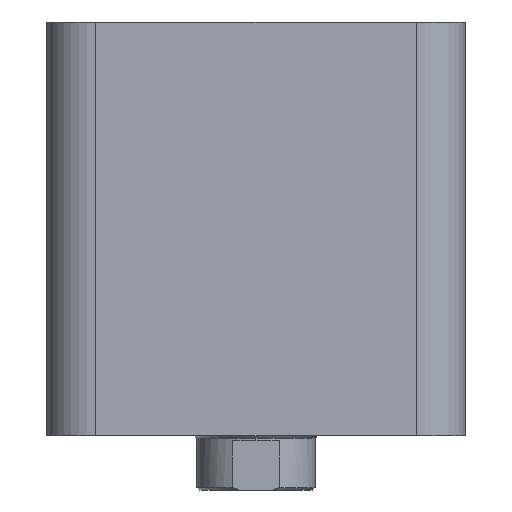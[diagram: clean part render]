
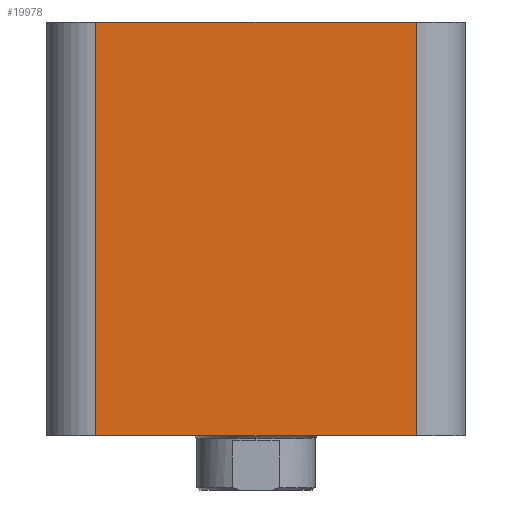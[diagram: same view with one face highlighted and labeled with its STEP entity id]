
A CAD part, left-side view. The second image highlights one B-rep face of the part: STEP entity #19978.
In plain terms, the highlighted planar face has unit normal (-1, 0, 0).
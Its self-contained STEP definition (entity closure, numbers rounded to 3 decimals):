
#2813 = DIRECTION ( 'NONE',  ( 0., 0., 1. ) ) ;
#2987 = PLANE ( 'NONE',  #12349 ) ;
#3137 = CARTESIAN_POINT ( 'NONE',  ( 0., 75., 84. ) ) ;
#3385 = DIRECTION ( 'NONE',  ( 0., 0., -1. ) ) ;
#3627 = CARTESIAN_POINT ( 'NONE',  ( 0., 75., 0. ) ) ;
#3966 = ORIENTED_EDGE ( 'NONE', *, *, #6335, .F. ) ;
#5008 = FACE_OUTER_BOUND ( 'NONE', #6361, .T. ) ;
#6335 = EDGE_CURVE ( 'NONE', #25607, #15226, #16707, .T. ) ;
#6361 = EDGE_LOOP ( 'NONE', ( #15973, #10055, #3966, #7796 ) ) ;
#6494 = DIRECTION ( 'NONE',  ( 0., -1., 0. ) ) ;
#7796 = ORIENTED_EDGE ( 'NONE', *, *, #10182, .T. ) ;
#7906 = LINE ( 'NONE', #24774, #25118 ) ;
#8219 = VECTOR ( 'NONE', #2813, 1000. ) ;
#8361 = CARTESIAN_POINT ( 'NONE',  ( 0., 10., 0. ) ) ;
#8429 = LINE ( 'NONE', #25175, #8219 ) ;
#9151 = EDGE_CURVE ( 'NONE', #17290, #19284, #7906, .T. ) ;
#10055 = ORIENTED_EDGE ( 'NONE', *, *, #11519, .T. ) ;
#10182 = EDGE_CURVE ( 'NONE', #25607, #17290, #16723, .T. ) ;
#11233 = VECTOR ( 'NONE', #22980, 1000. ) ;
#11283 = CARTESIAN_POINT ( 'NONE',  ( 0., 0., 84. ) ) ;
#11519 = EDGE_CURVE ( 'NONE', #19284, #15226, #8429, .T. ) ;
#12349 = AXIS2_PLACEMENT_3D ( 'NONE', #11283, #16155, #3385 ) ;
#15226 = VERTEX_POINT ( 'NONE', #15895 ) ;
#15895 = CARTESIAN_POINT ( 'NONE',  ( 0., 10., 84. ) ) ;
#15973 = ORIENTED_EDGE ( 'NONE', *, *, #9151, .T. ) ;
#16155 = DIRECTION ( 'NONE',  ( 1., 0., 0. ) ) ;
#16328 = DIRECTION ( 'NONE',  ( 0., -1., 0. ) ) ;
#16707 = LINE ( 'NONE', #20919, #16807 ) ;
#16723 = LINE ( 'NONE', #18749, #11233 ) ;
#16807 = VECTOR ( 'NONE', #6494, 1000. ) ;
#17290 = VERTEX_POINT ( 'NONE', #3627 ) ;
#18749 = CARTESIAN_POINT ( 'NONE',  ( 0., 75., 84. ) ) ;
#19284 = VERTEX_POINT ( 'NONE', #8361 ) ;
#19978 = ADVANCED_FACE ( 'NONE', ( #5008 ), #2987, .F. ) ;
#20919 = CARTESIAN_POINT ( 'NONE',  ( 0., 0., 84. ) ) ;
#22980 = DIRECTION ( 'NONE',  ( 0., 0., -1. ) ) ;
#24774 = CARTESIAN_POINT ( 'NONE',  ( 0., 0., 0. ) ) ;
#25118 = VECTOR ( 'NONE', #16328, 1000. ) ;
#25175 = CARTESIAN_POINT ( 'NONE',  ( 0., 10., 84. ) ) ;
#25607 = VERTEX_POINT ( 'NONE', #3137 ) ;
